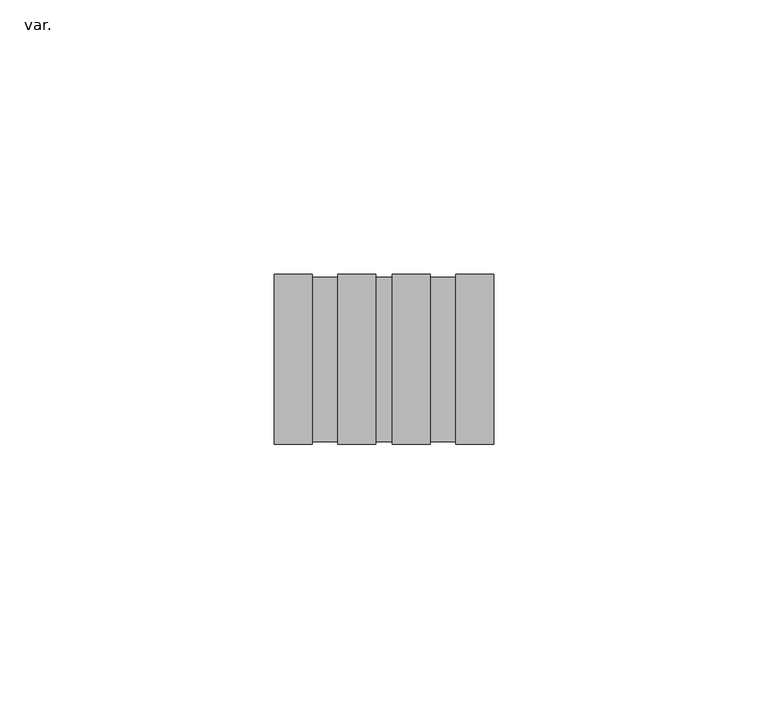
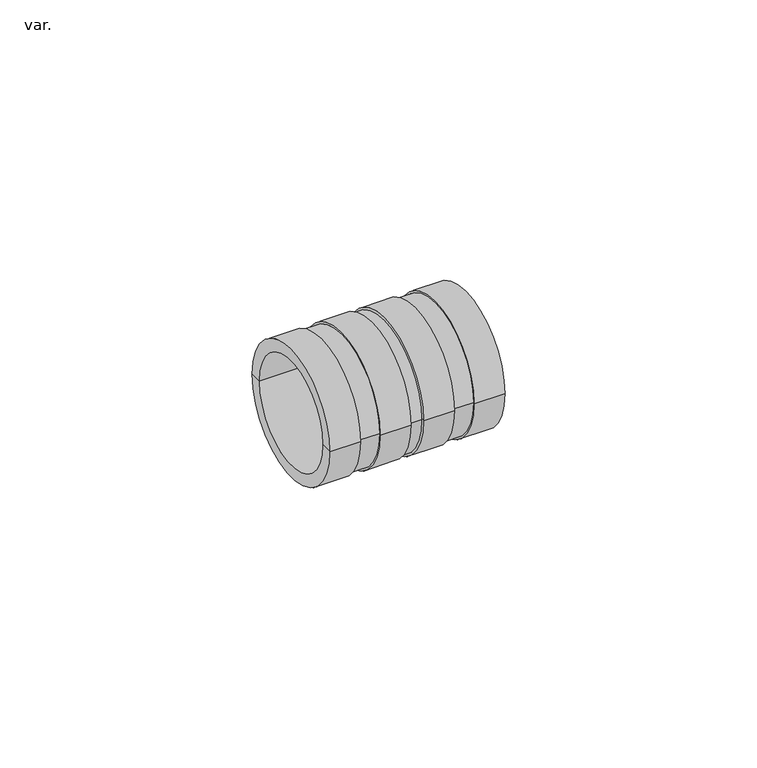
"""IFC4 building model written with IfcOpenShell, lengths in millimetres: pipe fitting geometry, AmancoWavin_ConexõesdeTubos_PEXUniãoMetálica : var.."""

import ifcopenshell
import ifcopenshell.guid

model = None  # the IFC model being written
_history = None  # IfcOwnerHistory: only IFC2X3 demands one
_inside = {}  # id of a spatial element -> (the spatial element, [elements in it])
_under = {}  # id of a project, library or spatial element -> (it, [spatial elements below it])
_declared = {}  # id of a project -> (the project, [libraries it declares])
_typed = {}  # id of a type object -> (the type object, [elements of that type])
_made_of = {}  # id of a material, layer set ... -> (it, [elements and type objects made of it])


def new_model(schema):
    """Start an empty IFC model of exactly this schema.

    Asked for "IFC4X3", IfcOpenShell would pick the latest addendum, in which some entities
    have other attributes; the version numbers below select the first issue.
    IFC2X3 requires an IfcOwnerHistory on every rooted entity: one is made here for all.
    """
    global model, _history
    if schema == "IFC4X3":
        model = ifcopenshell.file(schema_version=(4, 3, 0, 0))
    else:
        model = ifcopenshell.file(schema=schema)
    _inside.clear()
    _under.clear()
    _declared.clear()
    _typed.clear()
    _made_of.clear()
    _history = None
    if model.schema == "IFC2X3":
        org = make("IfcOrganization", Name="unknown")
        user = make(
            "IfcPersonAndOrganization",
            ThePerson=make("IfcPerson", FamilyName="unknown"),
            TheOrganization=org,
        )
        app = make(
            "IfcApplication",
            ApplicationDeveloper=org,
            Version="unknown",
            ApplicationFullName="unknown",
            ApplicationIdentifier="unknown",
        )
        _history = make(
            "IfcOwnerHistory",
            OwningUser=user,
            OwningApplication=app,
            ChangeAction="ADDED",
            CreationDate=0,
        )
    return model


def make(cls, **values):
    """One entity of the class cls with the attributes given. An attribute that is None is left unset."""
    return model.create_entity(
        cls, **{name: value for name, value in values.items() if value is not None}
    )


def rooted(cls, **values):
    """An entity with a GlobalId (a new one), such as an element, a storey or a relation."""
    return make(cls, GlobalId=ifcopenshell.guid.new(), OwnerHistory=_history, **values)


def si_unit(unit_type, name, prefix=None):
    """IfcSIUnit, for example si_unit("LENGTHUNIT", "METRE", prefix="MILLI")."""
    return make("IfcSIUnit", UnitType=unit_type, Prefix=prefix, Name=name)


def assignment(units):
    """IfcUnitAssignment: the units of a project."""
    return None if units is None else make("IfcUnitAssignment", Units=units)


def point(xyz):
    """IfcCartesianPoint."""
    return None if xyz is None else make("IfcCartesianPoint", Coordinates=xyz)


def direction(xyz):
    """IfcDirection."""
    return None if xyz is None else make("IfcDirection", DirectionRatios=xyz)


def frame(location, z_axis=None, x_axis=None):
    """IfcAxis2Placement3D, a coordinate frame: its origin and axes. An axis left out is left unset."""
    return make(
        "IfcAxis2Placement3D",
        Location=point(location),
        Axis=direction(z_axis),
        RefDirection=direction(x_axis),
    )


def origin():
    """The frame at (0, 0, 0) with its axes left unset."""
    return frame((0.0, 0.0, 0.0))


def place(relative_to, where):
    """IfcLocalPlacement: puts the frame where relative to a parent placement (None: the world)."""
    return make(
        "IfcLocalPlacement", PlacementRelTo=relative_to, RelativePlacement=where
    )


def context(
    kind, dimensions, precision=None, world=None, true_north=None, identifier=None
):
    """IfcGeometricRepresentationContext, for example the 3D "Model" context."""
    return make(
        "IfcGeometricRepresentationContext",
        ContextIdentifier=identifier,
        ContextType=kind,
        CoordinateSpaceDimension=dimensions,
        Precision=precision,
        WorldCoordinateSystem=world,
        TrueNorth=true_north,
    )


def project(units=None, contexts=None):
    """IfcProject with its units and contexts."""
    return rooted(
        "IfcProject",
        Name="project",
        RepresentationContexts=contexts,
        UnitsInContext=assignment(units),
    )


def spatial(cls, under=None, at=None, **own):
    """A site, building, storey or space (cls), placed at a placement, below another one or the project."""
    s = rooted(cls, ObjectPlacement=at, **own)
    if under is not None:
        _under.setdefault(under.id(), (under, []))[1].append(s)
    return s


def polyline(points):
    """IfcPolyline through the points."""
    return make("IfcPolyline", Points=[point(p) for p in points])


def circle_curve(where, radius):
    """IfcCircle in the frame where."""
    return make("IfcCircle", Position=where, Radius=radius)


def shape(context_of_items, identifier, shape_type, items):
    """IfcShapeRepresentation: the items that make up one representation, for example the "Body"."""
    return make(
        "IfcShapeRepresentation",
        ContextOfItems=context_of_items,
        RepresentationIdentifier=identifier,
        RepresentationType=shape_type,
        Items=items,
    )


def source(mapping_origin, context_of_items, identifier, shape_type, items):
    """IfcRepresentationMap: a shape defined once, which mapped items show again and again."""
    return make(
        "IfcRepresentationMap",
        MappingOrigin=mapping_origin,
        MappedRepresentation=shape(context_of_items, identifier, shape_type, items),
    )


def transform(
    local_origin,
    x_axis=None,
    y_axis=None,
    z_axis=None,
    scale=None,
    scale2=None,
    scale3=None,
    uniform=True,
):
    """IfcCartesianTransformationOperator3D, or its non-uniform kind. x_axis, y_axis, z_axis: its Axis1, 2, 3."""
    if uniform:
        return make(
            "IfcCartesianTransformationOperator3D",
            Axis1=direction(x_axis),
            Axis2=direction(y_axis),
            LocalOrigin=point(local_origin),
            Scale=scale,
            Axis3=direction(z_axis),
        )
    return make(
        "IfcCartesianTransformationOperator3DnonUniform",
        Axis1=direction(x_axis),
        Axis2=direction(y_axis),
        LocalOrigin=point(local_origin),
        Scale=scale,
        Axis3=direction(z_axis),
        Scale2=scale2,
        Scale3=scale3,
    )


def mapped(mapping_source, mapping_target):
    """IfcMappedItem: shows the shape of a source again, moved by a transform."""
    return make(
        "IfcMappedItem", MappingSource=mapping_source, MappingTarget=mapping_target
    )


def made_of(thing, what):
    """Note that an element or type object is made of a material, layer set ...; save() writes the relation."""
    if what is not None:
        _made_of.setdefault(what.id(), (what, []))[1].append(thing)
    return thing


def element(
    cls,
    number,
    at=None,
    inside=None,
    cuts=None,
    type_object=None,
    material=None,
    context=None,
    identifier="Body",
    shape_type=None,
    held_by="IfcProductDefinitionShape",
    body=None,
    shapes=None,
    **own,
):
    """One element of the class cls, such as IfcWall. Its Tag is "e" and its number.

    at: its placement. inside: the storey or other place that contains it. cuts: it is an
    opening in that element (IfcRelVoidsElement). A single representation is given by context,
    identifier, shape_type and body (its items); several are given by shapes. held_by: the class
    of the entity that holds the representations. save() writes the other relations.
    """
    e = rooted(cls, Tag="e%d" % number, ObjectPlacement=at, **own)
    if body is not None:
        shapes = [shape(context, identifier, shape_type, body)]
    if shapes is not None:
        e.Representation = make(held_by, Representations=shapes)
    if inside is not None:
        _inside.setdefault(inside.id(), (inside, []))[1].append(e)
    if cuts is not None:
        rooted(
            "IfcRelVoidsElement", RelatingBuildingElement=cuts, RelatedOpeningElement=e
        )
    if type_object is not None:
        _typed.setdefault(type_object.id(), (type_object, []))[1].append(e)
    return made_of(e, material)


def aggregate(whole, parts):
    """IfcRelAggregates: a whole, such as a stair, and the parts it consists of."""
    return rooted("IfcRelAggregates", RelatingObject=whole, RelatedObjects=parts)


def save(model, path):
    """Write the relations noted so far, then the file.

    IfcRelAggregates (storeys below a building ...), IfcRelContainedInSpatialStructure (elements
    in a storey), IfcRelDefinesByType, IfcRelAssociatesMaterial and IfcRelDeclares: one each for
    every whole, place, type object, material and project.
    """
    for whole, parts in _under.values():
        aggregate(whole, parts)
    for where, things in _inside.values():
        rooted(
            "IfcRelContainedInSpatialStructure",
            RelatedElements=things,
            RelatingStructure=where,
        )
    for kind, things in _typed.values():
        rooted("IfcRelDefinesByType", RelatedObjects=things, RelatingType=kind)
    for what, things in _made_of.values():
        rooted("IfcRelAssociatesMaterial", RelatedObjects=things, RelatingMaterial=what)
    for by, libraries in _declared.values():
        rooted("IfcRelDeclares", RelatingContext=by, RelatedDefinitions=libraries)
    model.write(path)


def plane_surface(at):
    """IfcPlane: the flat surface through the origin of the frame at, square to its z axis."""
    return make("IfcPlane", Position=at)


def cylinder_surface(at, radius):
    """IfcCylindricalSurface: all points at the distance radius from the z axis of the frame at."""
    return make("IfcCylindricalSurface", Position=at, Radius=radius)


def revolved_surface(curve, axis_point, axis_direction):
    """IfcSurfaceOfRevolution: the curve turned about the line through axis_point along axis_direction."""
    return make(
        "IfcSurfaceOfRevolution",
        SweptCurve=make("IfcArbitraryOpenProfileDef", ProfileType="CURVE", Curve=curve),
        AxisPosition=make("IfcAxis1Placement", Location=point(axis_point), Axis=direction(axis_direction)),
    )


def advanced_brep(points, edges, surfaces, faces):
    """IfcAdvancedBrep: a solid bounded by faces that lie on surfaces and meet in shared edges.

    An edge is (start, end): straight between two places in points (the first is 0);
    or (start, end, curve); or (start, end, curve, False) where it runs against its curve.
    A face is (place in surfaces, loops), or (place, loops, False) where it looks against
    its surface's normal. A loop lists edges by number (the first is 1), with a minus sign
    where the edge is run from its end to its start. The first loop is the outer one.
    """
    corners = [point(p) for p in points]
    vertices = [make("IfcVertexPoint", VertexGeometry=c) for c in corners]
    made = []
    for start, end, *more in edges:
        made.append(
            make(
                "IfcEdgeCurve",
                EdgeStart=vertices[start],
                EdgeEnd=vertices[end],
                EdgeGeometry=more[0] if more else make("IfcPolyline", Points=[corners[start], corners[end]]),
                SameSense=more[1] if len(more) > 1 else True,
            )
        )
    hull = []
    for where, loops, *sense in faces:
        bounds = []
        for j, loop in enumerate(loops):
            ring = [make("IfcOrientedEdge", EdgeElement=made[abs(k) - 1], Orientation=k > 0) for k in loop]
            bounds.append(
                make(
                    "IfcFaceOuterBound" if j == 0 else "IfcFaceBound",
                    Bound=make("IfcEdgeLoop", EdgeList=ring),
                    Orientation=True,
                )
            )
        hull.append(make("IfcAdvancedFace", Bounds=bounds, FaceSurface=surfaces[where], SameSense=sense[0] if sense else True))
    return make("IfcAdvancedBrep", Outer=make("IfcClosedShell", CfsFaces=hull))


def var_f646525f(model_context):
    return source(origin(), model_context, "Body", "AdvancedBrep", [
        advanced_brep(
        [(1.5, -15.5, 0.0), (1.5, 15.5, 0.0), (8.4375, 15.5, 0.0), (8.4375, -15.5, 0.0), (1.5, -12.7, 0.0), (1.5, 12.7, 0.0), (20.0, -12.7, 0.0), (20.0, 12.7, 0.0), (20.0, -15.5, 0.0), (20.0, 15.5, 0.0), (13.0625, -15.5, 0.0), (13.0625, 15.5, 0.0), (8.4375, 15.0, 0.0), (8.4375, -15.0, 0.0), (13.0625, 15.0, 0.0), (13.0625, -15.0, 0.0)],
        [
            (0, 1, circle_curve(frame((1.5, 0.0, 0.0), z_axis=(1.0, 0.0, 0.0), x_axis=(0.0, 1.0, 0.0)), 15.5)),
            (1, 2),
            (2, 3, circle_curve(frame((8.4375, 0.0, 0.0), z_axis=(-1.0, 0.0, 0.0), x_axis=(0.0, 1.0, 0.0)), 15.5)),
            (3, 0),
            (1, 0, circle_curve(frame((1.5, 0.0, 0.0), z_axis=(1.0, 0.0, 0.0), x_axis=(0.0, 1.0, 0.0)), 15.5)),
            (3, 2, circle_curve(frame((8.4375, 0.0, 0.0), z_axis=(-1.0, 0.0, 0.0), x_axis=(0.0, 1.0, 0.0)), 15.5)),
            (0, 4),
            (4, 5, circle_curve(frame((1.5, 0.0, 0.0), z_axis=(1.0, 0.0, 0.0), x_axis=(0.0, 1.0, 0.0)), 12.7)),
            (5, 1),
            (5, 4, circle_curve(frame((1.5, 0.0, 0.0), z_axis=(1.0, 0.0, 0.0), x_axis=(0.0, 1.0, 0.0)), 12.7)),
            (4, 6),
            (6, 7, circle_curve(frame((20.0, 0.0, 0.0), z_axis=(1.0, 0.0, 0.0), x_axis=(0.0, 1.0, 0.0)), 12.7)),
            (7, 5),
            (7, 6, circle_curve(frame((20.0, 0.0, 0.0), z_axis=(1.0, 0.0, 0.0), x_axis=(0.0, 1.0, 0.0)), 12.7)),
            (6, 8),
            (8, 9, circle_curve(frame((20.0, 0.0, 0.0), z_axis=(1.0, 0.0, 0.0), x_axis=(0.0, 1.0, 0.0)), 15.5)),
            (9, 7),
            (9, 8, circle_curve(frame((20.0, 0.0, 0.0), z_axis=(1.0, 0.0, 0.0), x_axis=(0.0, 1.0, 0.0)), 15.5)),
            (8, 10),
            (10, 11, circle_curve(frame((13.0625, 0.0, 0.0), z_axis=(1.0, 0.0, 0.0), x_axis=(0.0, 1.0, 0.0)), 15.5)),
            (11, 9),
            (11, 10, circle_curve(frame((13.0625, 0.0, 0.0), z_axis=(1.0, 0.0, 0.0), x_axis=(0.0, 1.0, 0.0)), 15.5)),
            (12, 13, circle_curve(frame((8.4375, 0.0, 0.0), z_axis=(-1.0, 0.0, 0.0), x_axis=(0.0, 1.0, 0.0)), 15.0)),
            (13, 3),
            (2, 12),
            (13, 12, circle_curve(frame((8.4375, 0.0, 0.0), z_axis=(-1.0, 0.0, 0.0), x_axis=(0.0, 1.0, 0.0)), 15.0)),
            (12, 14),
            (14, 15, circle_curve(frame((13.0625, 0.0, 0.0), z_axis=(-1.0, 0.0, 0.0), x_axis=(0.0, 1.0, 0.0)), 15.0)),
            (15, 13),
            (15, 14, circle_curve(frame((13.0625, 0.0, 0.0), z_axis=(-1.0, 0.0, 0.0), x_axis=(0.0, 1.0, 0.0)), 15.0)),
            (14, 11),
            (10, 15),
        ],
        [
            cylinder_surface(frame((-1992.6007619, 0.0, 0.0), z_axis=(-1.0, 0.0, 0.0), x_axis=(0.0, 1.0, 0.0)), 15.5),
            plane_surface(frame((1.5, 0.0, 0.0), z_axis=(-1.0, 0.0, 0.0), x_axis=(0.0, 1.0, 0.0))),
            revolved_surface(polyline([(1.5, 12.7, 0.0), (20.0, 12.7, 0.0)]), (-1992.6007619, 0.0, 0.0), (-1.0, 0.0, 0.0)),
            plane_surface(frame((20.0, 0.0, 0.0), z_axis=(1.0, 0.0, 0.0), x_axis=(0.0, 1.0, 0.0))),
            plane_surface(frame((8.4375, 0.0, 0.0), z_axis=(1.0, 0.0, 0.0), x_axis=(0.0, 1.0, 0.0))),
            cylinder_surface(frame((-1991.2882619, 0.0, 0.0), z_axis=(-1.0, 0.0, 0.0), x_axis=(0.0, 1.0, 0.0)), 15.0),
            plane_surface(frame((13.0625, 0.0, 0.0), z_axis=(-1.0, 0.0, 0.0), x_axis=(0.0, 1.0, 0.0))),
        ],
        [
            (0, [[1, 2, 3, 4]]),
            (0, [[5, -4, 6, -2]]),
            (1, [[-1, 7, 8, 9]]),
            (1, [[-5, -9, 10, -7]]),
            (2, [[-8, 11, 12, 13]]),
            (2, [[-10, -13, 14, -11]]),
            (3, [[-12, 15, 16, 17]]),
            (3, [[-14, -17, 18, -15]]),
            (0, [[-16, 19, 20, 21]]),
            (0, [[-18, -21, 22, -19]]),
            (4, [[23, 24, -3, 25]]),
            (4, [[26, -25, -6, -24]]),
            (5, [[-23, 27, 28, 29]]),
            (5, [[-26, -29, 30, -27]]),
            (6, [[-28, 31, -20, 32]]),
            (6, [[-30, -32, -22, -31]]),
        ],
    ),
        advanced_brep(
        [(-20.0, -15.5, 0.0), (-20.0, 15.5, 0.0), (-13.0625, 15.5, 0.0), (-13.0625, -15.5, 0.0), (-20.0, -12.7, 0.0), (-20.0, 12.7, 0.0), (-1.5, -12.7, 0.0), (-1.5, 12.7, 0.0), (-1.5, -15.5, 0.0), (-1.5, 15.5, 0.0), (-8.4375, -15.5, 0.0), (-8.4375, 15.5, 0.0), (-13.0625, 15.0, 0.0), (-13.0625, -15.0, 0.0), (-8.4375, 15.0, 0.0), (-8.4375, -15.0, 0.0)],
        [
            (0, 1, circle_curve(frame((-20.0, 0.0, 0.0), z_axis=(1.0, 0.0, 0.0), x_axis=(0.0, 1.0, 0.0)), 15.5)),
            (1, 2),
            (2, 3, circle_curve(frame((-13.0625, 0.0, 0.0), z_axis=(-1.0, 0.0, 0.0), x_axis=(0.0, 1.0, 0.0)), 15.5)),
            (3, 0),
            (1, 0, circle_curve(frame((-20.0, 0.0, 0.0), z_axis=(1.0, 0.0, 0.0), x_axis=(0.0, 1.0, 0.0)), 15.5)),
            (3, 2, circle_curve(frame((-13.0625, 0.0, 0.0), z_axis=(-1.0, 0.0, 0.0), x_axis=(0.0, 1.0, 0.0)), 15.5)),
            (0, 4),
            (4, 5, circle_curve(frame((-20.0, 0.0, 0.0), z_axis=(1.0, 0.0, 0.0), x_axis=(0.0, 1.0, 0.0)), 12.7)),
            (5, 1),
            (5, 4, circle_curve(frame((-20.0, 0.0, 0.0), z_axis=(1.0, 0.0, 0.0), x_axis=(0.0, 1.0, 0.0)), 12.7)),
            (4, 6),
            (6, 7, circle_curve(frame((-1.5, 0.0, 0.0), z_axis=(1.0, 0.0, 0.0), x_axis=(0.0, 1.0, 0.0)), 12.7)),
            (7, 5),
            (7, 6, circle_curve(frame((-1.5, 0.0, 0.0), z_axis=(1.0, 0.0, 0.0), x_axis=(0.0, 1.0, 0.0)), 12.7)),
            (6, 8),
            (8, 9, circle_curve(frame((-1.5, 0.0, 0.0), z_axis=(1.0, 0.0, 0.0), x_axis=(0.0, 1.0, 0.0)), 15.5)),
            (9, 7),
            (9, 8, circle_curve(frame((-1.5, 0.0, 0.0), z_axis=(1.0, 0.0, 0.0), x_axis=(0.0, 1.0, 0.0)), 15.5)),
            (8, 10),
            (10, 11, circle_curve(frame((-8.4375, 0.0, 0.0), z_axis=(1.0, 0.0, 0.0), x_axis=(0.0, 1.0, 0.0)), 15.5)),
            (11, 9),
            (11, 10, circle_curve(frame((-8.4375, 0.0, 0.0), z_axis=(1.0, 0.0, 0.0), x_axis=(0.0, 1.0, 0.0)), 15.5)),
            (12, 13, circle_curve(frame((-13.0625, 0.0, 0.0), z_axis=(-1.0, 0.0, 0.0), x_axis=(0.0, 1.0, 0.0)), 15.0)),
            (13, 3),
            (2, 12),
            (13, 12, circle_curve(frame((-13.0625, 0.0, 0.0), z_axis=(-1.0, 0.0, 0.0), x_axis=(0.0, 1.0, 0.0)), 15.0)),
            (12, 14),
            (14, 15, circle_curve(frame((-8.4375, 0.0, 0.0), z_axis=(-1.0, 0.0, 0.0), x_axis=(0.0, 1.0, 0.0)), 15.0)),
            (15, 13),
            (15, 14, circle_curve(frame((-8.4375, 0.0, 0.0), z_axis=(-1.0, 0.0, 0.0), x_axis=(0.0, 1.0, 0.0)), 15.0)),
            (14, 11),
            (10, 15),
        ],
        [
            cylinder_surface(frame((-2014.1007619, 0.0, 0.0), z_axis=(-1.0, 0.0, 0.0), x_axis=(0.0, 1.0, 0.0)), 15.5),
            plane_surface(frame((-20.0, 0.0, 0.0), z_axis=(-1.0, 0.0, 0.0), x_axis=(0.0, 1.0, 0.0))),
            revolved_surface(polyline([(-20.0, 12.7, 0.0), (-1.5, 12.7, 0.0)]), (-2014.1007619, 0.0, 0.0), (-1.0, 0.0, 0.0)),
            plane_surface(frame((-1.5, 0.0, 0.0), z_axis=(1.0, 0.0, 0.0), x_axis=(0.0, 1.0, 0.0))),
            plane_surface(frame((-13.0625, 0.0, 0.0), z_axis=(1.0, 0.0, 0.0), x_axis=(0.0, 1.0, 0.0))),
            cylinder_surface(frame((-2012.7882619, 0.0, 0.0), z_axis=(-1.0, 0.0, 0.0), x_axis=(0.0, 1.0, 0.0)), 15.0),
            plane_surface(frame((-8.4375, 0.0, 0.0), z_axis=(-1.0, 0.0, 0.0), x_axis=(0.0, 1.0, 0.0))),
        ],
        [
            (0, [[1, 2, 3, 4]]),
            (0, [[5, -4, 6, -2]]),
            (1, [[-1, 7, 8, 9]]),
            (1, [[-5, -9, 10, -7]]),
            (2, [[-8, 11, 12, 13]]),
            (2, [[-10, -13, 14, -11]]),
            (3, [[-12, 15, 16, 17]]),
            (3, [[-14, -17, 18, -15]]),
            (0, [[-16, 19, 20, 21]]),
            (0, [[-18, -21, 22, -19]]),
            (4, [[23, 24, -3, 25]]),
            (4, [[26, -25, -6, -24]]),
            (5, [[-23, 27, 28, 29]]),
            (5, [[-26, -29, 30, -27]]),
            (6, [[-28, 31, -20, 32]]),
            (6, [[-30, -32, -22, -31]]),
        ],
    ),
        advanced_brep(
        [(1.5, -15.0, 0.0), (1.5, 15.0, 0.0), (1.5, 0.0, 0.0), (-1.5, -15.0, 0.0), (-1.5, 15.0, 0.0), (-1.5, 0.0, 0.0)],
        [
            (0, 1, circle_curve(frame((1.5, 0.0, 0.0), z_axis=(1.0, 0.0, 0.0), x_axis=(0.0, 1.0, 0.0)), 15.0)),
            (1, 2),
            (2, 0),
            (1, 0, circle_curve(frame((1.5, 0.0, 0.0), z_axis=(1.0, 0.0, 0.0), x_axis=(0.0, 1.0, 0.0)), 15.0)),
            (3, 4, circle_curve(frame((-1.5, 0.0, 0.0), z_axis=(1.0, 0.0, 0.0), x_axis=(0.0, 1.0, 0.0)), 15.0)),
            (4, 1),
            (0, 3),
            (4, 3, circle_curve(frame((-1.5, 0.0, 0.0), z_axis=(1.0, 0.0, 0.0), x_axis=(0.0, 1.0, 0.0)), 15.0)),
            (5, 4),
            (3, 5),
        ],
        [
            plane_surface(frame((1.5, 0.0, 0.0), z_axis=(1.0, 0.0, 0.0), x_axis=(0.0, 1.0, 0.0))),
            cylinder_surface(frame((-1997.7466803, 0.0, 0.0), z_axis=(-1.0, 0.0, 0.0), x_axis=(0.0, 1.0, 0.0)), 15.0),
            plane_surface(frame((-1.5, 0.0, 0.0), z_axis=(-1.0, 0.0, 0.0), x_axis=(0.0, 1.0, 0.0))),
        ],
        [
            (0, [[1, 2, 3]]),
            (0, [[4, -3, -2]]),
            (1, [[5, 6, -1, 7]]),
            (1, [[8, -7, -4, -6]]),
            (2, [[9, -5, 10]]),
            (2, [[-10, -8, -9]]),
        ],
    ),
    ])


if __name__ == "__main__":
    model = new_model("IFC4")
    model_context = context("Model", 3, world=origin())
    ifc_project = project(units=[si_unit("LENGTHUNIT", "METRE", prefix="MILLI")], contexts=[model_context])
    site = spatial("IfcSite", under=ifc_project)
    building = spatial("IfcBuilding", under=site)
    placement = place(None, origin())
    var_shape = var_f646525f(model_context)
    element("IfcPipeFitting", 1, ObjectType="AmancoWavin_ConexõesdeTubos_PEXUniãoMetálica : var.", at=placement, inside=building, context=model_context, shape_type="MappedRepresentation", body=[
        mapped(var_shape, transform((0.0, 0.0, 0.0), x_axis=(1.0, 0.0, 0.0), y_axis=(0.0, 1.0, 0.0), z_axis=(0.0, 0.0, 1.0))),
    ])
    save(model, "model.ifc")
